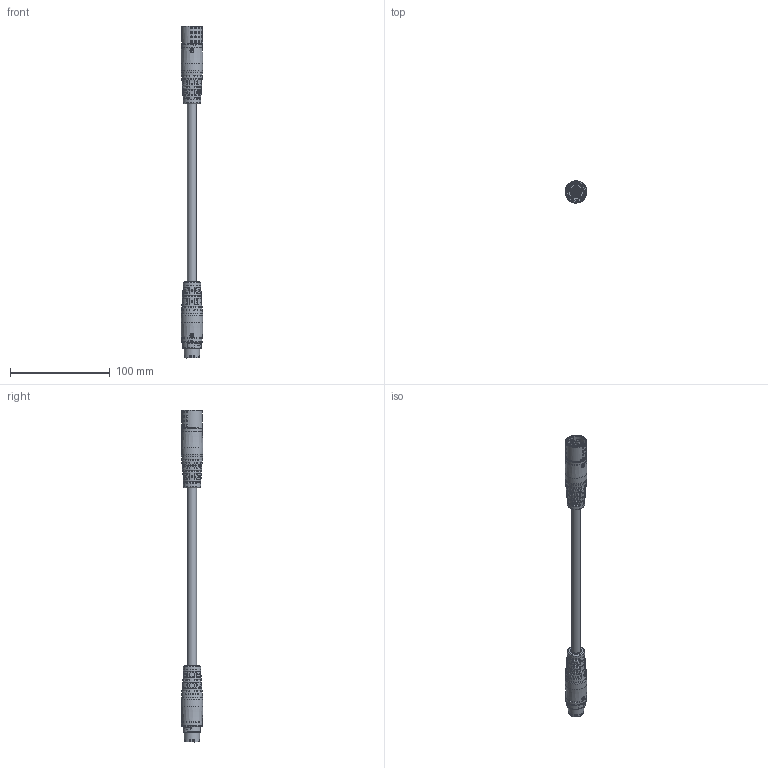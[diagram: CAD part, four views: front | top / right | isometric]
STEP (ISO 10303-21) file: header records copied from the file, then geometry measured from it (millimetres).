
FILE_DESCRIPTION (( 'STEP AP203' ), '1' );
FILE_NAME ('1146380_W-TEC_15K_STI_BU_STEP.STEP', '2023-09-04T07:43:27', ( '' ), ( '' ), 'SwSTEP 2.0', 'SolidWorks 2021', '' );
FILE_SCHEMA (( 'CONFIG_CONTROL_DESIGN' ));
Products named in the file (1): 1146380_W-TEC_15K_STI_BU_STEP
Bounding box: 21.79 x 21.87 x 332.06 mm (x, y, z)
Surface area: 21867.2 mm2 (no closed solid volume)
Topology: 0 solids, 26 shells, 913 faces, 3659 edges, 2557 vertices
Faces by surface type: bspline 366, plane 255, cylinder 220, cone 50, torus 19, sphere 3
Full cylindrical faces by diameter (mm): 1.6 x3, 3.3 x6, 4 x2, 4.2 x3, 4.4 x3, 9.1 x1, 11.1 x2, 15.2 x1, 15.4 x1, 17.384 x2, 18.304 x1, 18.4 x1, 21.24 x2, 21.72 x2
Entity records: 61141 total; most frequent: CARTESIAN_POINT 37155, ORIENTED_EDGE 5260, EDGE_CURVE 3465, DIRECTION 3455, VERTEX_POINT 2503, B_SPLINE_CURVE_WITH_KNOTS 1657, AXIS2_PLACEMENT_3D 1249, EDGE_LOOP 1093
